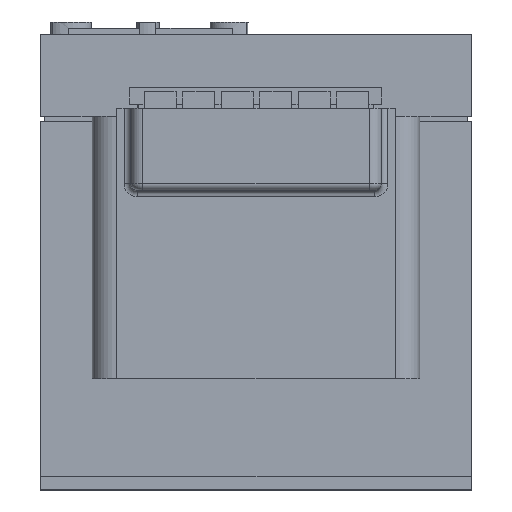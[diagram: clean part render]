
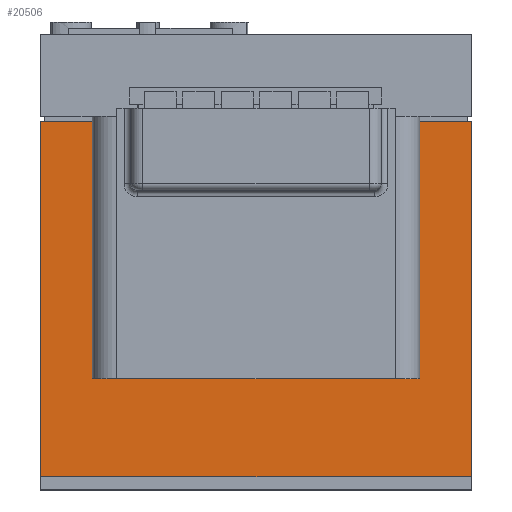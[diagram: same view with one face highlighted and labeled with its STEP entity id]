
A CAD part, top view. The second image highlights one B-rep face of the part: STEP entity #20506.
In plain terms, the highlighted planar face has unit normal (0, 0, 1).
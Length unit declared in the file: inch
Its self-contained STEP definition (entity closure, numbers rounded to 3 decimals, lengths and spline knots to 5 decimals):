
#3445 = ORIENTED_EDGE ( 'NONE', *, *, #18542, .T. ) ;
#4424 = LINE ( 'NONE', #24718, #18994 ) ;
#4631 = DIRECTION ( 'NONE',  ( 0., -1., 0. ) ) ;
#5567 = CARTESIAN_POINT ( 'NONE',  ( 2., 1.35, 1.38276 ) ) ;
#6817 = ORIENTED_EDGE ( 'NONE', *, *, #21801, .F. ) ;
#7004 = CARTESIAN_POINT ( 'NONE',  ( -2.625, 0.15, 1.38276 ) ) ;
#7102 = LINE ( 'NONE', #27072, #42021 ) ;
#7345 = DIRECTION ( 'NONE',  ( 1., 0., 0. ) ) ;
#7814 = DIRECTION ( 'NONE',  ( 1., 0., 0. ) ) ;
#8558 = CARTESIAN_POINT ( 'NONE',  ( -2.625, 1.35, 1.38276 ) ) ;
#9456 = ORIENTED_EDGE ( 'NONE', *, *, #53948, .F. ) ;
#9693 = VERTEX_POINT ( 'NONE', #41170 ) ;
#9898 = LINE ( 'NONE', #19090, #27510 ) ;
#10304 = ORIENTED_EDGE ( 'NONE', *, *, #10739, .T. ) ;
#10707 = CARTESIAN_POINT ( 'NONE',  ( -2.625, 0.14867, 1.38276 ) ) ;
#10739 = EDGE_CURVE ( 'NONE', #50423, #61303, #39296, .T. ) ;
#11573 = LINE ( 'NONE', #7004, #60009 ) ;
#12140 = CARTESIAN_POINT ( 'NONE',  ( 2.625, 0.15, 1.38276 ) ) ;
#13252 = EDGE_CURVE ( 'NONE', #50585, #38697, #22409, .T. ) ;
#13442 = DIRECTION ( 'NONE',  ( -1., 0., 0. ) ) ;
#14236 = DIRECTION ( 'NONE',  ( 1., 0., 0. ) ) ;
#14447 = ORIENTED_EDGE ( 'NONE', *, *, #57724, .T. ) ;
#14620 = CARTESIAN_POINT ( 'NONE',  ( 2.625, 0.14867, 1.38276 ) ) ;
#16170 = DIRECTION ( 'NONE',  ( 0., 1., 0. ) ) ;
#16532 = AXIS2_PLACEMENT_3D ( 'NONE', #19013, #54328, #13442 ) ;
#17242 = VERTEX_POINT ( 'NONE', #55664 ) ;
#18542 = EDGE_CURVE ( 'NONE', #17242, #9693, #21222, .T. ) ;
#18690 = FACE_OUTER_BOUND ( 'NONE', #29354, .T. ) ;
#18994 = VECTOR ( 'NONE', #19470, 39.37008 ) ;
#19013 = CARTESIAN_POINT ( 'NONE',  ( -2.625, 5.55, 1.38276 ) ) ;
#19090 = CARTESIAN_POINT ( 'NONE',  ( 2.63, 0.14867, 1.38276 ) ) ;
#19470 = DIRECTION ( 'NONE',  ( 0., -1., 0. ) ) ;
#19636 = DIRECTION ( 'NONE',  ( 0., 1., 0. ) ) ;
#19913 = CARTESIAN_POINT ( 'NONE',  ( -2.63, 0.14867, 1.38276 ) ) ;
#20506 = ADVANCED_FACE ( 'NONE', ( #18690 ), #43873, .F. ) ;
#20693 = CARTESIAN_POINT ( 'NONE',  ( 2.63, 0.14867, 1.38276 ) ) ;
#21222 = LINE ( 'NONE', #19913, #45629 ) ;
#21356 = ORIENTED_EDGE ( 'NONE', *, *, #56404, .T. ) ;
#21801 = EDGE_CURVE ( 'NONE', #30573, #38683, #59910, .T. ) ;
#22409 = LINE ( 'NONE', #46307, #33555 ) ;
#23458 = DIRECTION ( 'NONE',  ( -1., 0., 0. ) ) ;
#23914 = CARTESIAN_POINT ( 'NONE',  ( 2., 4.48812, 1.38276 ) ) ;
#24416 = LINE ( 'NONE', #55125, #57766 ) ;
#24624 = ORIENTED_EDGE ( 'NONE', *, *, #13252, .F. ) ;
#24718 = CARTESIAN_POINT ( 'NONE',  ( -2., 5.55, 1.38276 ) ) ;
#26850 = EDGE_CURVE ( 'NONE', #38683, #50585, #7102, .T. ) ;
#27072 = CARTESIAN_POINT ( 'NONE',  ( 2., 5.55, 1.38276 ) ) ;
#27217 = CARTESIAN_POINT ( 'NONE',  ( -2., 4.48812, 1.38276 ) ) ;
#27291 = EDGE_CURVE ( 'NONE', #9693, #49911, #24416, .T. ) ;
#27510 = VECTOR ( 'NONE', #48837, 39.37008 ) ;
#28101 = LINE ( 'NONE', #36951, #36078 ) ;
#28532 = DIRECTION ( 'NONE',  ( 1., 0., 0. ) ) ;
#29354 = EDGE_LOOP ( 'NONE', ( #24624, #61538, #6817, #9456, #14447, #3445, #39897, #21356, #29757, #10304, #56960, #51719 ) ) ;
#29757 = ORIENTED_EDGE ( 'NONE', *, *, #63611, .T. ) ;
#30573 = VERTEX_POINT ( 'NONE', #63053 ) ;
#31968 = LINE ( 'NONE', #37513, #52414 ) ;
#33555 = VECTOR ( 'NONE', #7345, 39.37008 ) ;
#35659 = DIRECTION ( 'NONE',  ( 1., 0., 0. ) ) ;
#36078 = VECTOR ( 'NONE', #7814, 39.37008 ) ;
#36951 = CARTESIAN_POINT ( 'NONE',  ( -2.625, 0.15, 1.38276 ) ) ;
#37513 = CARTESIAN_POINT ( 'NONE',  ( -2.58, 4.48812, 1.38276 ) ) ;
#38683 = VERTEX_POINT ( 'NONE', #5567 ) ;
#38697 = VERTEX_POINT ( 'NONE', #54953 ) ;
#38798 = EDGE_CURVE ( 'NONE', #61303, #56723, #44496, .T. ) ;
#39296 = LINE ( 'NONE', #50055, #46902 ) ;
#39897 = ORIENTED_EDGE ( 'NONE', *, *, #27291, .T. ) ;
#39915 = CARTESIAN_POINT ( 'NONE',  ( -2.63, 0.14867, 1.38276 ) ) ;
#40539 = VECTOR ( 'NONE', #28532, 39.37008 ) ;
#41170 = CARTESIAN_POINT ( 'NONE',  ( -2.63, 0.14867, 1.38276 ) ) ;
#42021 = VECTOR ( 'NONE', #19636, 39.37008 ) ;
#43873 = PLANE ( 'NONE',  #16532 ) ;
#44496 = LINE ( 'NONE', #39915, #62920 ) ;
#44658 = CARTESIAN_POINT ( 'NONE',  ( -2.625, 0.15, 1.38276 ) ) ;
#45568 = VERTEX_POINT ( 'NONE', #27217 ) ;
#45629 = VECTOR ( 'NONE', #49660, 39.37008 ) ;
#46307 = CARTESIAN_POINT ( 'NONE',  ( 2.58, 4.48812, 1.38276 ) ) ;
#46902 = VECTOR ( 'NONE', #4631, 39.37008 ) ;
#48837 = DIRECTION ( 'NONE',  ( 0., 1., 0. ) ) ;
#49660 = DIRECTION ( 'NONE',  ( 0., -1., 0. ) ) ;
#49911 = VERTEX_POINT ( 'NONE', #10707 ) ;
#50055 = CARTESIAN_POINT ( 'NONE',  ( 2.625, 0.15, 1.38276 ) ) ;
#50423 = VERTEX_POINT ( 'NONE', #12140 ) ;
#50585 = VERTEX_POINT ( 'NONE', #23914 ) ;
#51719 = ORIENTED_EDGE ( 'NONE', *, *, #59435, .T. ) ;
#52414 = VECTOR ( 'NONE', #23458, 39.37008 ) ;
#53948 = EDGE_CURVE ( 'NONE', #45568, #30573, #4424, .T. ) ;
#54328 = DIRECTION ( 'NONE',  ( 0., 0., -1. ) ) ;
#54953 = CARTESIAN_POINT ( 'NONE',  ( 2.63, 4.48812, 1.38276 ) ) ;
#55125 = CARTESIAN_POINT ( 'NONE',  ( -2.63, 0.14867, 1.38276 ) ) ;
#55664 = CARTESIAN_POINT ( 'NONE',  ( -2.63, 4.48812, 1.38276 ) ) ;
#56319 = VERTEX_POINT ( 'NONE', #44658 ) ;
#56404 = EDGE_CURVE ( 'NONE', #49911, #56319, #11573, .T. ) ;
#56723 = VERTEX_POINT ( 'NONE', #20693 ) ;
#56960 = ORIENTED_EDGE ( 'NONE', *, *, #38798, .T. ) ;
#57724 = EDGE_CURVE ( 'NONE', #45568, #17242, #31968, .T. ) ;
#57766 = VECTOR ( 'NONE', #14236, 39.37008 ) ;
#59435 = EDGE_CURVE ( 'NONE', #56723, #38697, #9898, .T. ) ;
#59910 = LINE ( 'NONE', #8558, #40539 ) ;
#60009 = VECTOR ( 'NONE', #16170, 39.37008 ) ;
#61303 = VERTEX_POINT ( 'NONE', #14620 ) ;
#61538 = ORIENTED_EDGE ( 'NONE', *, *, #26850, .F. ) ;
#62920 = VECTOR ( 'NONE', #35659, 39.37008 ) ;
#63053 = CARTESIAN_POINT ( 'NONE',  ( -2., 1.35, 1.38276 ) ) ;
#63611 = EDGE_CURVE ( 'NONE', #56319, #50423, #28101, .T. ) ;
